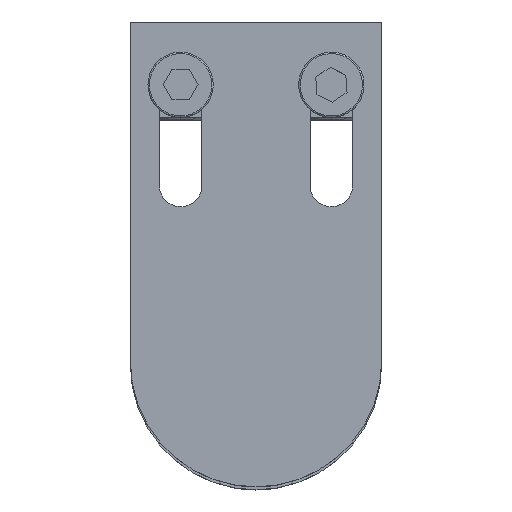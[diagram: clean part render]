
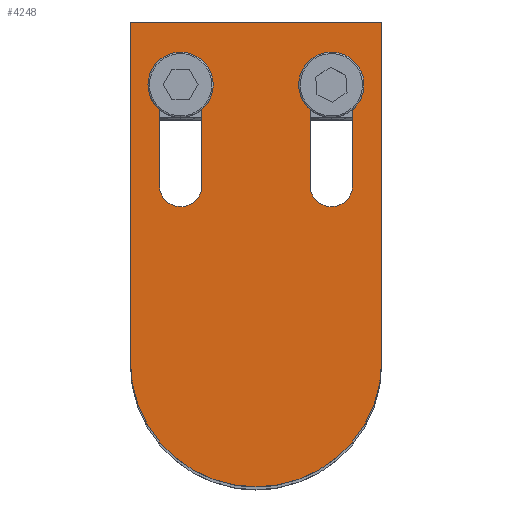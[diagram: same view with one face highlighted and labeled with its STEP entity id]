
A CAD part, top view. The second image highlights one B-rep face of the part: STEP entity #4248.
In plain terms, the highlighted planar face has unit normal (0, 0, 1) as drawn and (0, 0, -1) by its records, which use the part's own axes.
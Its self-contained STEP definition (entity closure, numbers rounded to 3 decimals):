
#16 = DIRECTION ( 'NONE',  ( -1., 0., 0. ) ) ;
#79 = AXIS2_PLACEMENT_3D ( 'NONE', #1317, #3522, #1877 ) ;
#319 = LINE ( 'NONE', #2978, #1593 ) ;
#323 = VERTEX_POINT ( 'NONE', #397 ) ;
#356 = EDGE_CURVE ( 'NONE', #1656, #2221, #319, .T. ) ;
#397 = CARTESIAN_POINT ( 'NONE',  ( -19.25, 35., -6. ) ) ;
#424 = VECTOR ( 'NONE', #2654, 1000. ) ;
#425 = CARTESIAN_POINT ( 'NONE',  ( -15., 55., -6. ) ) ;
#442 = EDGE_CURVE ( 'NONE', #2897, #323, #2583, .T. ) ;
#465 = AXIS2_PLACEMENT_3D ( 'NONE', #425, #3396, #4039 ) ;
#466 = LINE ( 'NONE', #2554, #2878 ) ;
#521 = LINE ( 'NONE', #1400, #424 ) ;
#524 = VECTOR ( 'NONE', #1071, 1000. ) ;
#659 = VERTEX_POINT ( 'NONE', #1940 ) ;
#692 = ORIENTED_EDGE ( 'NONE', *, *, #2761, .T. ) ;
#785 = VECTOR ( 'NONE', #2213, 1000. ) ;
#953 = ORIENTED_EDGE ( 'NONE', *, *, #2039, .F. ) ;
#987 = DIRECTION ( 'NONE',  ( 1., 0., 0. ) ) ;
#1010 = DIRECTION ( 'NONE',  ( 0., -1., 0. ) ) ;
#1071 = DIRECTION ( 'NONE',  ( 0., -1., 0. ) ) ;
#1088 = CIRCLE ( 'NONE', #3989, 4.25 ) ;
#1146 = ORIENTED_EDGE ( 'NONE', *, *, #1399, .T. ) ;
#1193 = ORIENTED_EDGE ( 'NONE', *, *, #2058, .F. ) ;
#1259 = DIRECTION ( 'NONE',  ( -1., 0., 0. ) ) ;
#1271 = DIRECTION ( 'NONE',  ( 0., 1., 0. ) ) ;
#1287 = CARTESIAN_POINT ( 'NONE',  ( 25., 0., -6. ) ) ;
#1317 = CARTESIAN_POINT ( 'NONE',  ( -15., 35., -6. ) ) ;
#1331 = AXIS2_PLACEMENT_3D ( 'NONE', #2254, #1332, #987 ) ;
#1332 = DIRECTION ( 'NONE',  ( 0., 0., 1. ) ) ;
#1333 = CARTESIAN_POINT ( 'NONE',  ( -19.25, 55., -6. ) ) ;
#1357 = ORIENTED_EDGE ( 'NONE', *, *, #356, .T. ) ;
#1388 = CARTESIAN_POINT ( 'NONE',  ( -10.75, 35., -6. ) ) ;
#1399 = EDGE_CURVE ( 'NONE', #3837, #3884, #3729, .T. ) ;
#1400 = CARTESIAN_POINT ( 'NONE',  ( -25., 0., -6. ) ) ;
#1502 = DIRECTION ( 'NONE',  ( 0., 0., 1. ) ) ;
#1549 = EDGE_CURVE ( 'NONE', #3266, #2325, #3196, .T. ) ;
#1593 = VECTOR ( 'NONE', #1010, 1000. ) ;
#1606 = ORIENTED_EDGE ( 'NONE', *, *, #3173, .T. ) ;
#1618 = EDGE_LOOP ( 'NONE', ( #1193, #3644, #2848, #953 ) ) ;
#1656 = VERTEX_POINT ( 'NONE', #3366 ) ;
#1691 = EDGE_CURVE ( 'NONE', #3477, #4052, #521, .T. ) ;
#1702 = CARTESIAN_POINT ( 'NONE',  ( -19.25, 35., -6. ) ) ;
#1729 = CIRCLE ( 'NONE', #465, 4.25 ) ;
#1790 = AXIS2_PLACEMENT_3D ( 'NONE', #4151, #1502, #2544 ) ;
#1803 = VERTEX_POINT ( 'NONE', #2408 ) ;
#1820 = ORIENTED_EDGE ( 'NONE', *, *, #442, .T. ) ;
#1856 = EDGE_CURVE ( 'NONE', #2221, #3837, #1088, .T. ) ;
#1864 = CARTESIAN_POINT ( 'NONE',  ( 15., 35., -6. ) ) ;
#1877 = DIRECTION ( 'NONE',  ( 1., 0., 0. ) ) ;
#1902 = CARTESIAN_POINT ( 'NONE',  ( 19.25, 55., -6. ) ) ;
#1926 = ORIENTED_EDGE ( 'NONE', *, *, #1856, .T. ) ;
#1940 = CARTESIAN_POINT ( 'NONE',  ( 25., 67.5, -6. ) ) ;
#1945 = CIRCLE ( 'NONE', #1331, 25. ) ;
#1964 = CARTESIAN_POINT ( 'NONE',  ( -25., 0., -6. ) ) ;
#2039 = EDGE_CURVE ( 'NONE', #1803, #659, #3192, .T. ) ;
#2058 = EDGE_CURVE ( 'NONE', #4052, #1803, #1945, .T. ) ;
#2148 = FACE_BOUND ( 'NONE', #4047, .T. ) ;
#2213 = DIRECTION ( 'NONE',  ( 0., 1., 0. ) ) ;
#2221 = VERTEX_POINT ( 'NONE', #2363 ) ;
#2254 = CARTESIAN_POINT ( 'NONE',  ( 0., 0., -6. ) ) ;
#2255 = VECTOR ( 'NONE', #1271, 1000. ) ;
#2325 = VERTEX_POINT ( 'NONE', #4098 ) ;
#2363 = CARTESIAN_POINT ( 'NONE',  ( 10.75, 35., -6. ) ) ;
#2408 = CARTESIAN_POINT ( 'NONE',  ( 25., 0., -6. ) ) ;
#2433 = PLANE ( 'NONE',  #1790 ) ;
#2494 = DIRECTION ( 'NONE',  ( -1., 0., 0. ) ) ;
#2518 = VECTOR ( 'NONE', #3280, 1000. ) ;
#2544 = DIRECTION ( 'NONE',  ( 1., 0., 0. ) ) ;
#2554 = CARTESIAN_POINT ( 'NONE',  ( 25., 67.5, -6. ) ) ;
#2583 = LINE ( 'NONE', #1702, #524 ) ;
#2654 = DIRECTION ( 'NONE',  ( 0., -1., 0. ) ) ;
#2678 = CIRCLE ( 'NONE', #3387, 4.25 ) ;
#2686 = CARTESIAN_POINT ( 'NONE',  ( 15., 55., -6. ) ) ;
#2761 = EDGE_CURVE ( 'NONE', #3884, #1656, #2678, .T. ) ;
#2824 = FACE_BOUND ( 'NONE', #2898, .T. ) ;
#2848 = ORIENTED_EDGE ( 'NONE', *, *, #3227, .F. ) ;
#2878 = VECTOR ( 'NONE', #16, 1000. ) ;
#2897 = VERTEX_POINT ( 'NONE', #1333 ) ;
#2898 = EDGE_LOOP ( 'NONE', ( #1820, #1606, #4252, #4190 ) ) ;
#2954 = CARTESIAN_POINT ( 'NONE',  ( -10.75, 35., -6. ) ) ;
#2978 = CARTESIAN_POINT ( 'NONE',  ( 10.75, 35., -6. ) ) ;
#3105 = CARTESIAN_POINT ( 'NONE',  ( -25., 67.5, -6. ) ) ;
#3122 = DIRECTION ( 'NONE',  ( 0., 0., 1. ) ) ;
#3173 = EDGE_CURVE ( 'NONE', #323, #3266, #4070, .T. ) ;
#3192 = LINE ( 'NONE', #1287, #2518 ) ;
#3196 = LINE ( 'NONE', #2954, #2255 ) ;
#3227 = EDGE_CURVE ( 'NONE', #659, #3477, #466, .T. ) ;
#3266 = VERTEX_POINT ( 'NONE', #1388 ) ;
#3280 = DIRECTION ( 'NONE',  ( 0., 1., 0. ) ) ;
#3366 = CARTESIAN_POINT ( 'NONE',  ( 10.75, 55., -6. ) ) ;
#3387 = AXIS2_PLACEMENT_3D ( 'NONE', #2686, #3122, #2494 ) ;
#3396 = DIRECTION ( 'NONE',  ( 0., 0., 1. ) ) ;
#3398 = FACE_OUTER_BOUND ( 'NONE', #1618, .T. ) ;
#3477 = VERTEX_POINT ( 'NONE', #3105 ) ;
#3522 = DIRECTION ( 'NONE',  ( 0., 0., 1. ) ) ;
#3644 = ORIENTED_EDGE ( 'NONE', *, *, #1691, .F. ) ;
#3729 = LINE ( 'NONE', #4214, #785 ) ;
#3833 = DIRECTION ( 'NONE',  ( 0., 0., 1. ) ) ;
#3837 = VERTEX_POINT ( 'NONE', #3863 ) ;
#3863 = CARTESIAN_POINT ( 'NONE',  ( 19.25, 35., -6. ) ) ;
#3884 = VERTEX_POINT ( 'NONE', #1902 ) ;
#3989 = AXIS2_PLACEMENT_3D ( 'NONE', #1864, #3833, #1259 ) ;
#4039 = DIRECTION ( 'NONE',  ( 1., 0., 0. ) ) ;
#4047 = EDGE_LOOP ( 'NONE', ( #1357, #1926, #1146, #692 ) ) ;
#4052 = VERTEX_POINT ( 'NONE', #1964 ) ;
#4070 = CIRCLE ( 'NONE', #79, 4.25 ) ;
#4098 = CARTESIAN_POINT ( 'NONE',  ( -10.75, 55., -6. ) ) ;
#4134 = EDGE_CURVE ( 'NONE', #2325, #2897, #1729, .T. ) ;
#4151 = CARTESIAN_POINT ( 'NONE',  ( 0., 0., -6. ) ) ;
#4190 = ORIENTED_EDGE ( 'NONE', *, *, #4134, .T. ) ;
#4214 = CARTESIAN_POINT ( 'NONE',  ( 19.25, 35., -6. ) ) ;
#4248 = ADVANCED_FACE ( 'NONE', ( #2148, #2824, #3398 ), #2433, .F. ) ;
#4252 = ORIENTED_EDGE ( 'NONE', *, *, #1549, .T. ) ;
